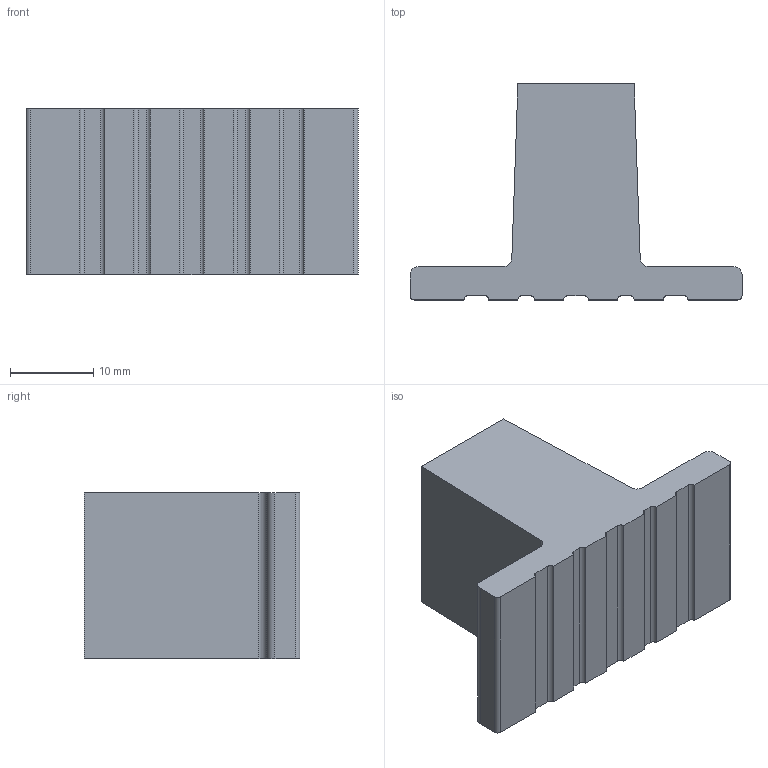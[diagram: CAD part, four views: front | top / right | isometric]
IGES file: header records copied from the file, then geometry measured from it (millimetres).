
Start section: Data from Parasolid IGES Translator 15.0.47, Copyright(c) 2006 Siemens P LM Software. All Rights Reserved.
Global section: file name: 9080852.igs; native system:  By UGS Corp.; preprocessor: XPlus GENERIC/IGES 3.0; author: Noname; organization: Noname; date: 20140122.100556; units: millimetre
Bounding box: 40 x 26 x 20 mm (x, y, z)
Surface area: 4660.2 mm2 (no closed solid volume)
Topology: 0 solids, 0 shells, 56 faces, 306 edges, 306 vertices
Faces by surface type: extrusion 29, revolution 27
